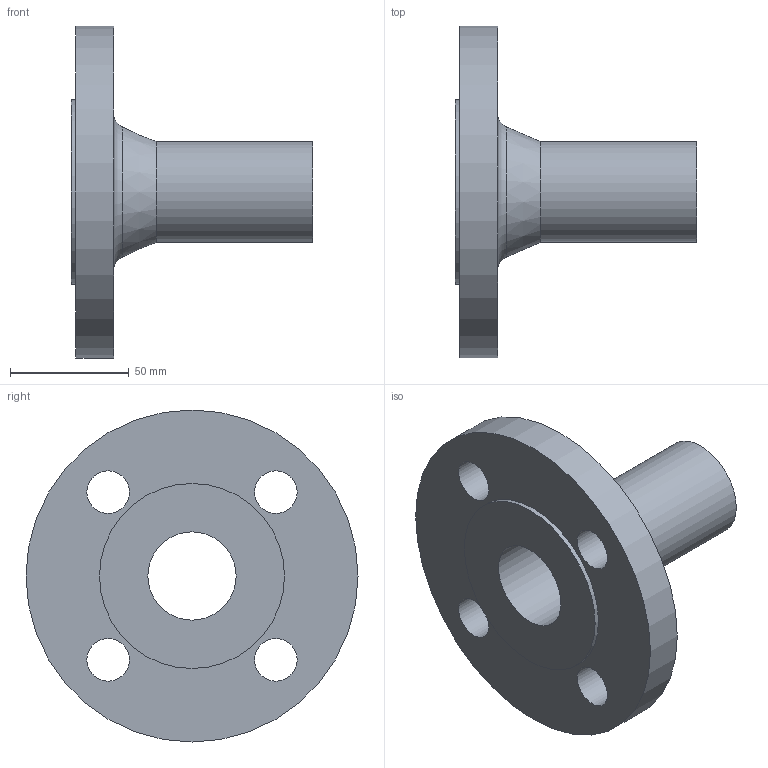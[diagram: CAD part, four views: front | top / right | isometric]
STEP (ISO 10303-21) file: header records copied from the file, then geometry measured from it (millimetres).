
FILE_DESCRIPTION(/* description */ (''),/* implementation_level */ '2;1');
FILE_NAME(/* name */ 'C:\Users\LK_9K\Desktop\STRAUB FLANSCHADAPTER DN32.stp',/* time_stamp */ '2021-04-12T07:55:20+02:00',/* author */ ('LK_9K'),/* organization */ (''),/* preprocessor_version */ 'ST-DEVELOPER v18.1',/* originating_system */ 'Autodesk Inventor 2020',/* authorisation */ '');
FILE_SCHEMA (('AUTOMOTIVE_DESIGN { 1 0 10303 214 3 1 1 }'));
Length unit declared in the file: millimetre
Products named in the file (1): Bauteil1
Bounding box: 102 x 140 x 140 mm (x, y, z)
Volume: 254042.7 mm3; surface area: 60367.9 mm2
Topology: 1 solids, 1 shells, 16 faces, 46 edges, 35 vertices
Faces by surface type: cylinder 9, plane 5, torus 1, cone 1
Full cylindrical faces by diameter (mm): 18 x4, 37.2 x1, 38.4 x1, 42.4 x1, 78 x1, 140 x1
Entity records: 631 total; most frequent: DIRECTION 116, CARTESIAN_POINT 98, ORIENTED_EDGE 92, AXIS2_PLACEMENT_3D 53, EDGE_CURVE 46, CIRCLE 36, VERTEX_POINT 35, EDGE_LOOP 29
